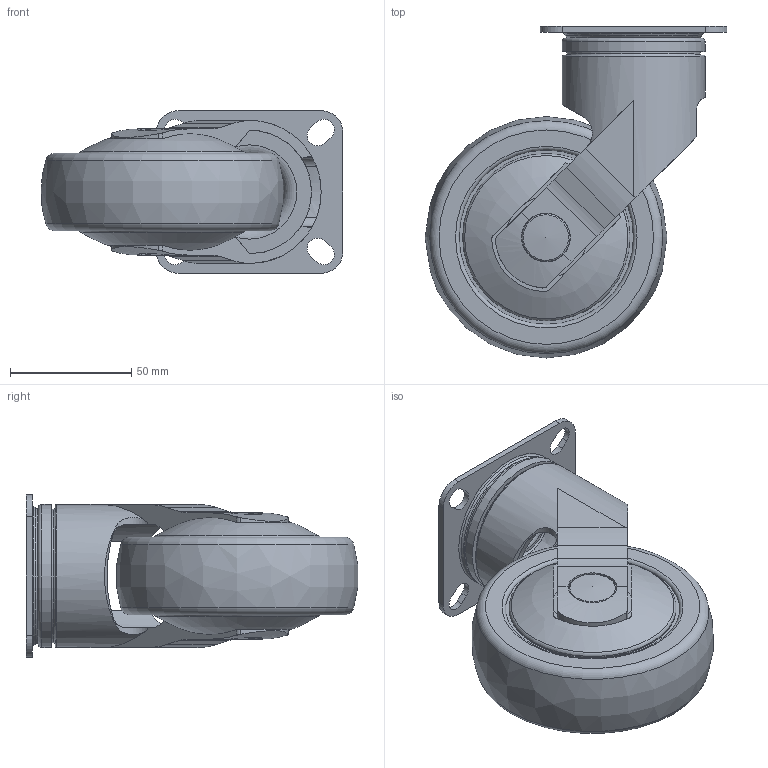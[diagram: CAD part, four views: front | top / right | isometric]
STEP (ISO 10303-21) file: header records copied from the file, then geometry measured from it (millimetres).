
FILE_DESCRIPTION( ( 'STEP AP214' ), '1' );
FILE_NAME( 'p:/temp/worker_81/temp/exporttempdir_524_33_1RnGR/format_0/5370PJP100P50.stp', '2021-02-04T13:00:09', ( 'License CC BY-ND 4.0' ), ( 'CADENAS' ), ' ', 'PARTsolutions', ' ' );
FILE_SCHEMA( ( 'AUTOMOTIVE_DESIGN { 1 0 10303 214 1 1 1 1 }' ) );
Length unit declared in the file: millimetre
Products named in the file (3): 5370PJP100P50; _5370100P501; _5370100P502
Assembly tree (2 placements, depth 2):
  5370PJP100P50
    _5370100P501
    _5370100P502
Bounding box: 124.49 x 136.83 x 67 mm (x, y, z)
Volume: 357709.6 mm3; surface area: 61901.2 mm2
Topology: 2 solids, 2 shells, 158 faces, 399 edges, 257 vertices
Faces by surface type: plane 61, cylinder 54, torus 26, cone 12, sphere 4, bspline 1
Full cylindrical faces by diameter (mm): 8 x1, 8.2 x1, 15.2 x1, 22.5 x1, 27.89 x1, 55 x1, 59 x2, 69 x2
Entity records: 6217 total; most frequent: CARTESIAN_POINT 1296, DIRECTION 766, ORIENTED_EDGE 670, EDGE_CURVE 335, AXIS2_PLACEMENT_3D 310, VERTEX_POINT 248, EDGE_LOOP 235, FACE_OUTER_BOUND 197
